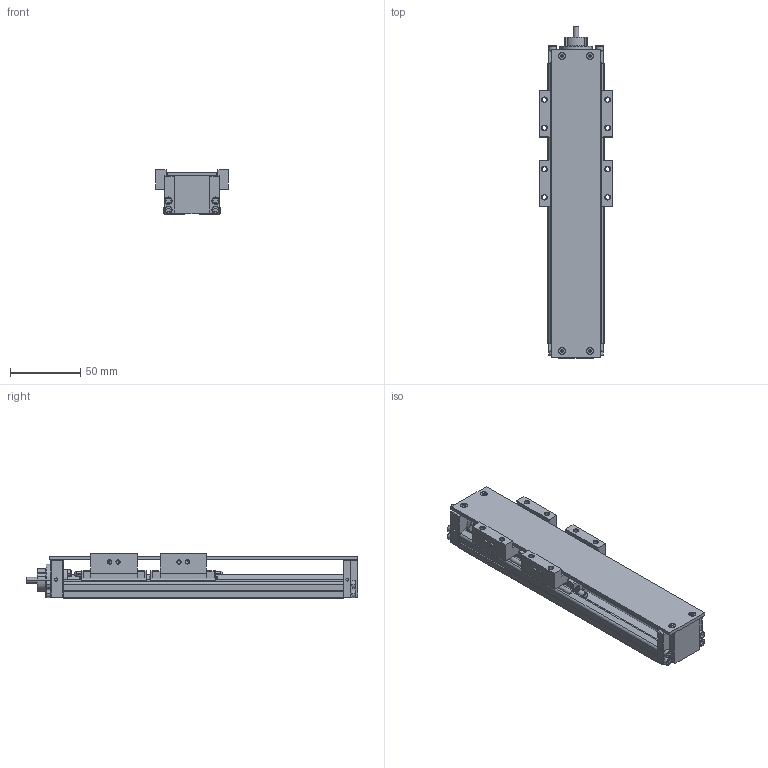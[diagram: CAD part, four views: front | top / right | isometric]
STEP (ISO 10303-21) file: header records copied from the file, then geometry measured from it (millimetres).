
FILE_DESCRIPTION(('no description'),'unknown implementation level');
FILE_NAME('KK4001P200A2H0C00_FILE_8.stp',' ',('HIWIN GmbH'),('CADClick - KiM GmbH - www.kimweb.de'),'unknown preprocess','ACIS','unknown authorization');
FILE_SCHEMA(('automotive_design'));
Length unit declared in the file: millimetre
Products named in the file (3): KK4001P200A2H0C00_FILE_1; KK40_FILE; KK4001P200A2H0C00_FILE
Bounding box: 52 x 236.5 x 32 mm (x, y, z)
Volume: 167104.7 mm3; surface area: 80027.6 mm2
Topology: 3 solids, 27 shells, 1336 faces, 3472 edges, 2210 vertices
Faces by surface type: plane 805, cylinder 387, cone 88, torus 52, sphere 4
Entity records: 81296 total; most frequent: CARTESIAN_POINT 8797, DIRECTION 7058, STYLED_ITEM 7005, PRESENTATION_STYLE_ASSIGNMENT 7005, COLOUR_RGB 7005, ORIENTED_EDGE 6912, EDGE_CURVE 3456, CURVE_STYLE 3456
